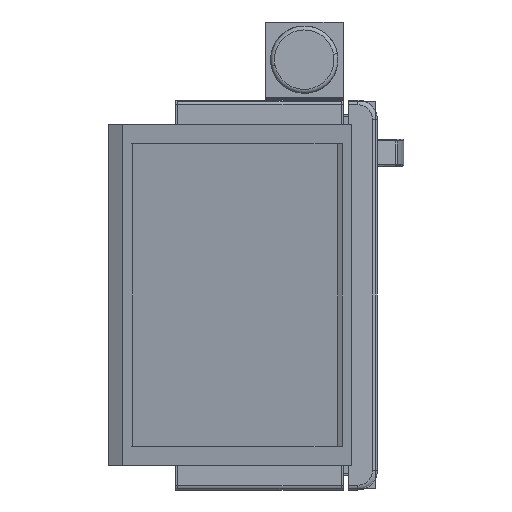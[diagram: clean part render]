
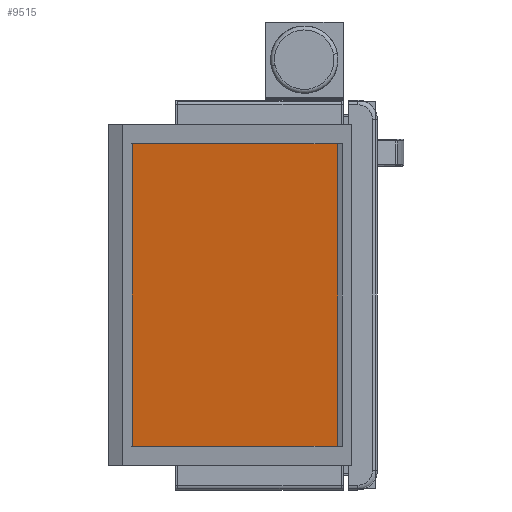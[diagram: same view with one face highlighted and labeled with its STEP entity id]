
A CAD part, left-side view. The second image highlights one B-rep face of the part: STEP entity #9515.
In plain terms, the highlighted planar face has unit normal (-0.497, -0.868, 0) as drawn and (0, 0, -1) by its records, which use the part's own axes.
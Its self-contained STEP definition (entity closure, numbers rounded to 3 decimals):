
#123 = LINE ( 'NONE', #4204, #4365 ) ;
#901 = FACE_OUTER_BOUND ( 'NONE', #13211, .T. ) ;
#1043 = LINE ( 'NONE', #12845, #11412 ) ;
#1220 = VECTOR ( 'NONE', #4908, 1000. ) ;
#1333 = VERTEX_POINT ( 'NONE', #10074 ) ;
#2410 = LINE ( 'NONE', #14460, #13982 ) ;
#2737 = ORIENTED_EDGE ( 'NONE', *, *, #15240, .T. ) ;
#3486 = CARTESIAN_POINT ( 'NONE',  ( 20., 453., 5. ) ) ;
#3561 = DIRECTION ( 'NONE',  ( 0., 0., -1. ) ) ;
#4204 = CARTESIAN_POINT ( 'NONE',  ( 20., 453., 5. ) ) ;
#4365 = VECTOR ( 'NONE', #4944, 1000. ) ;
#4532 = EDGE_CURVE ( 'NONE', #1333, #13191, #1043, .T. ) ;
#4908 = DIRECTION ( 'NONE',  ( 1., 0., 0. ) ) ;
#4944 = DIRECTION ( 'NONE',  ( 0., 1., 0. ) ) ;
#5091 = VERTEX_POINT ( 'NONE', #3486 ) ;
#5155 = DIRECTION ( 'NONE',  ( -1., 0., 0. ) ) ;
#5211 = AXIS2_PLACEMENT_3D ( 'NONE', #11705, #3561, #7543 ) ;
#5890 = VERTEX_POINT ( 'NONE', #12950 ) ;
#7214 = CARTESIAN_POINT ( 'NONE',  ( 330., 20., 5. ) ) ;
#7394 = ORIENTED_EDGE ( 'NONE', *, *, #8952, .T. ) ;
#7543 = DIRECTION ( 'NONE',  ( -1., 0., 0. ) ) ;
#8952 = EDGE_CURVE ( 'NONE', #5091, #1333, #15473, .T. ) ;
#9041 = PLANE ( 'NONE',  #5211 ) ;
#9515 = ADVANCED_FACE ( 'NONE', ( #901 ), #9041, .T. ) ;
#10074 = CARTESIAN_POINT ( 'NONE',  ( 330., 453., 5. ) ) ;
#10602 = ORIENTED_EDGE ( 'NONE', *, *, #4532, .T. ) ;
#11412 = VECTOR ( 'NONE', #14507, 1000. ) ;
#11705 = CARTESIAN_POINT ( 'NONE',  ( 0., 0., 5. ) ) ;
#12845 = CARTESIAN_POINT ( 'NONE',  ( 330., 453., 5. ) ) ;
#12950 = CARTESIAN_POINT ( 'NONE',  ( 20., 20., 5. ) ) ;
#13066 = EDGE_CURVE ( 'NONE', #5890, #5091, #123, .T. ) ;
#13191 = VERTEX_POINT ( 'NONE', #7214 ) ;
#13211 = EDGE_LOOP ( 'NONE', ( #10602, #2737, #13944, #7394 ) ) ;
#13944 = ORIENTED_EDGE ( 'NONE', *, *, #13066, .T. ) ;
#13982 = VECTOR ( 'NONE', #5155, 1000. ) ;
#14134 = CARTESIAN_POINT ( 'NONE',  ( 330., 453., 5. ) ) ;
#14460 = CARTESIAN_POINT ( 'NONE',  ( 330., 20., 5. ) ) ;
#14507 = DIRECTION ( 'NONE',  ( 0., -1., 0. ) ) ;
#15240 = EDGE_CURVE ( 'NONE', #13191, #5890, #2410, .T. ) ;
#15473 = LINE ( 'NONE', #14134, #1220 ) ;
